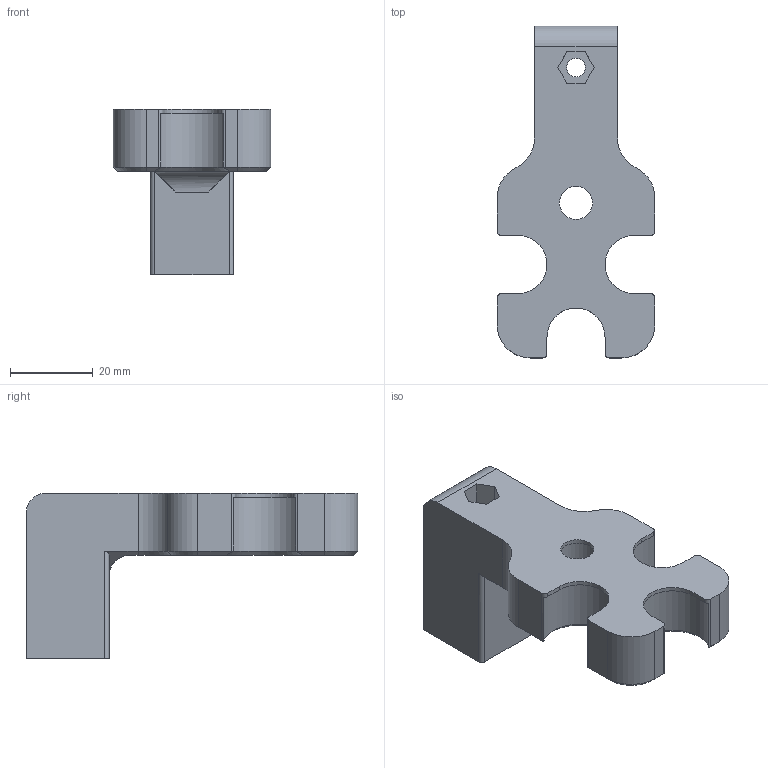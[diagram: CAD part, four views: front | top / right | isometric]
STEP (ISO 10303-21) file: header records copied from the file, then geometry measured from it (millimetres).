
FILE_DESCRIPTION(/* description */ (''),/* implementation_level */ '2;1');
FILE_NAME(/* name */ 'porta_sensore.stp',/* time_stamp */ '2025-09-22T19:56:13+02:00',/* author */ ('R5800u'),/* organization */ (''),/* preprocessor_version */ 'ST-DEVELOPER v20',/* originating_system */ 'Autodesk Inventor 2025',/* authorisation */ '');
FILE_SCHEMA (('AUTOMOTIVE_DESIGN { 1 0 10303 214 3 1 1 }'));
Length unit declared in the file: millimetre
Products named in the file (1): porta_sensore
Bounding box: 38 x 80 x 40 mm (x, y, z)
Volume: 33722.9 mm3; surface area: 11152.8 mm2
Topology: 1 solids, 1 shells, 73 faces, 196 edges, 127 vertices
Faces by surface type: plane 38, cylinder 25, cone 10
Full cylindrical faces by diameter (mm): 4.5 x1, 8 x1, 11 x1
Entity records: 2351 total; most frequent: CARTESIAN_POINT 433, DIRECTION 398, ORIENTED_EDGE 392, EDGE_CURVE 196, AXIS2_PLACEMENT_3D 140, VERTEX_POINT 127, LINE 118, VECTOR 118
